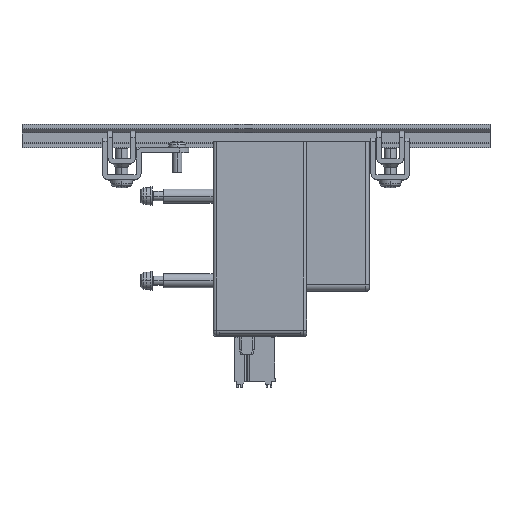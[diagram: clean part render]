
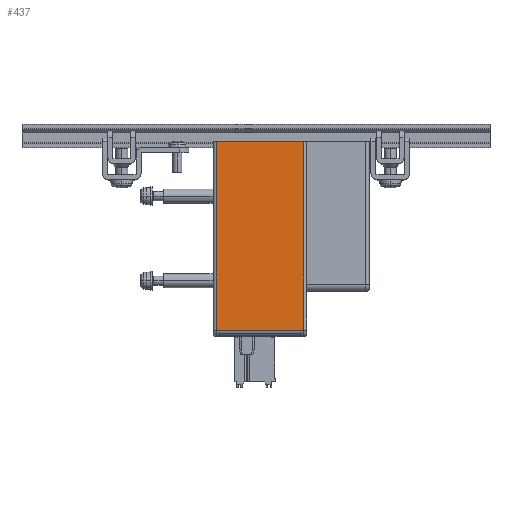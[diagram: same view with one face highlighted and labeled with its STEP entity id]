
A CAD part, top view. The second image highlights one B-rep face of the part: STEP entity #437.
In plain terms, the highlighted planar face has unit normal (0, 0, 1).
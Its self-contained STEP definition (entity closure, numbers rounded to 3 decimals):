
#437=ADVANCED_FACE('',(#3873),#3872,.F.);
#3872=PLANE('',#11585);
#3873=FACE_OUTER_BOUND('',#11586,.T.);
#11582=CARTESIAN_POINT('',(31.8,-72.15,62.2));
#11583=DIRECTION('',(0.,0.,-1.));
#11584=DIRECTION('',(-1.,0.,0.));
#11585=AXIS2_PLACEMENT_3D('',#11582,#11583,#11584);
#11586=EDGE_LOOP('',(#16932,#16933,#16934,#16935));
#16932=ORIENTED_EDGE('',*,*,#20899,.T.);
#16933=ORIENTED_EDGE('',*,*,#20897,.F.);
#16934=ORIENTED_EDGE('',*,*,#20813,.T.);
#16935=ORIENTED_EDGE('',*,*,#20838,.T.);
#20813=EDGE_CURVE('',#27267,#27286,#27294,.T.);
#20838=EDGE_CURVE('',#27286,#27449,#27456,.T.);
#20897=EDGE_CURVE('',#27267,#27851,#27852,.T.);
#20899=EDGE_CURVE('',#27449,#27851,#27864,.T.);
#27267=VERTEX_POINT('',#40669);
#27286=VERTEX_POINT('',#40682);
#27294=LINE('',#40688,#40689);
#27449=VERTEX_POINT('',#40784);
#27456=LINE('',#40789,#40790);
#27851=VERTEX_POINT('',#41013);
#27852=LINE('',#41014,#41015);
#27864=LINE('',#41021,#41022);
#40669=CARTESIAN_POINT('',(29.,-66.1,62.2));
#40682=CARTESIAN_POINT('',(29.,-5.6,62.2));
#40688=CARTESIAN_POINT('',(29.,-66.1,62.2));
#40689=VECTOR('',#40690,60.5);
#40690=DIRECTION('',(0.,1.,0.));
#40784=CARTESIAN_POINT('',(1.,-5.6,62.2));
#40789=CARTESIAN_POINT('',(29.,-5.6,62.2));
#40790=VECTOR('',#40791,28.);
#40791=DIRECTION('',(-1.,0.,0.));
#41013=CARTESIAN_POINT('',(1.,-66.1,62.2));
#41014=CARTESIAN_POINT('',(29.,-66.1,62.2));
#41015=VECTOR('',#41016,28.);
#41016=DIRECTION('',(-1.,0.,0.));
#41021=CARTESIAN_POINT('',(1.,-5.6,62.2));
#41022=VECTOR('',#41023,60.5);
#41023=DIRECTION('',(0.,-1.,0.));
